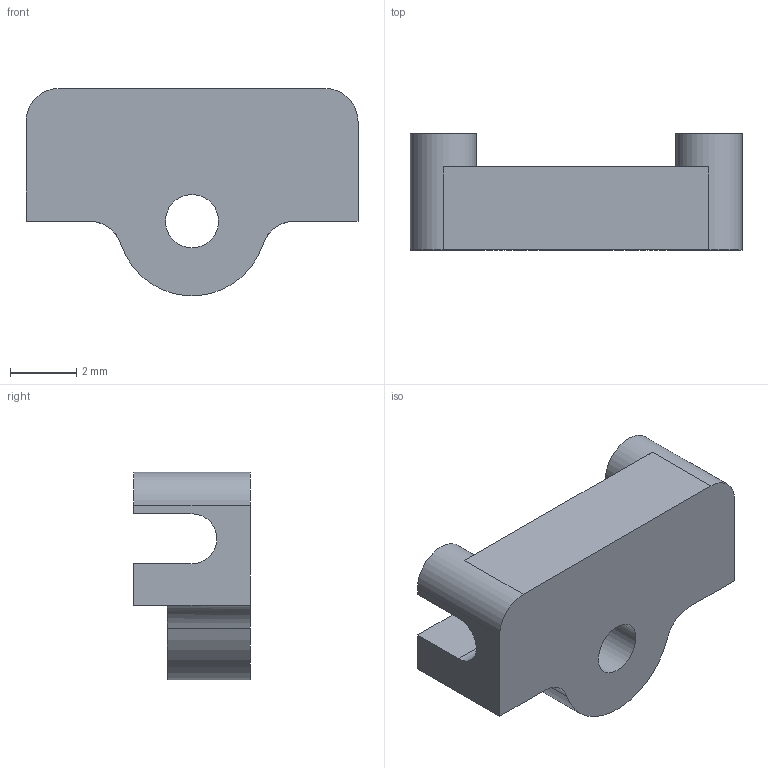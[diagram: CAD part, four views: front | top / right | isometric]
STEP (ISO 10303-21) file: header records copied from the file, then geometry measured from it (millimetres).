
FILE_DESCRIPTION(/* description */ (''),/* implementation_level */ '2;1');
FILE_NAME(/* name */ 'Trigger_Pivot_-_Final_-_31-03-21 v1.step',/* time_stamp */ '2022-11-01T10:44:45+09:00',/* author */ (''),/* organization */ (''),/* preprocessor_version */ 'ST-DEVELOPER v19.2',/* originating_system */ 'Autodesk Translation Framework v11.17.0.187',/* authorisation */ '');
FILE_SCHEMA (('AUTOMOTIVE_DESIGN { 1 0 10303 214 3 1 1 }'));
Length unit declared in the file: millimetre
Products named in the file (1): Trigger_Pivot_-_Final_-_31-03-21
Bounding box: 10 x 3.5 x 6.24 mm (x, y, z)
Volume: 103.5 mm3; surface area: 220.8 mm2
Topology: 1 solids, 1 shells, 25 faces, 69 edges, 46 vertices
Faces by surface type: plane 18, cylinder 7
Full cylindrical faces by diameter (mm): 1.6 x1
Entity records: 845 total; most frequent: CARTESIAN_POINT 141, DIRECTION 139, ORIENTED_EDGE 138, EDGE_CURVE 69, LINE 51, VECTOR 51, VERTEX_POINT 46, AXIS2_PLACEMENT_3D 44
